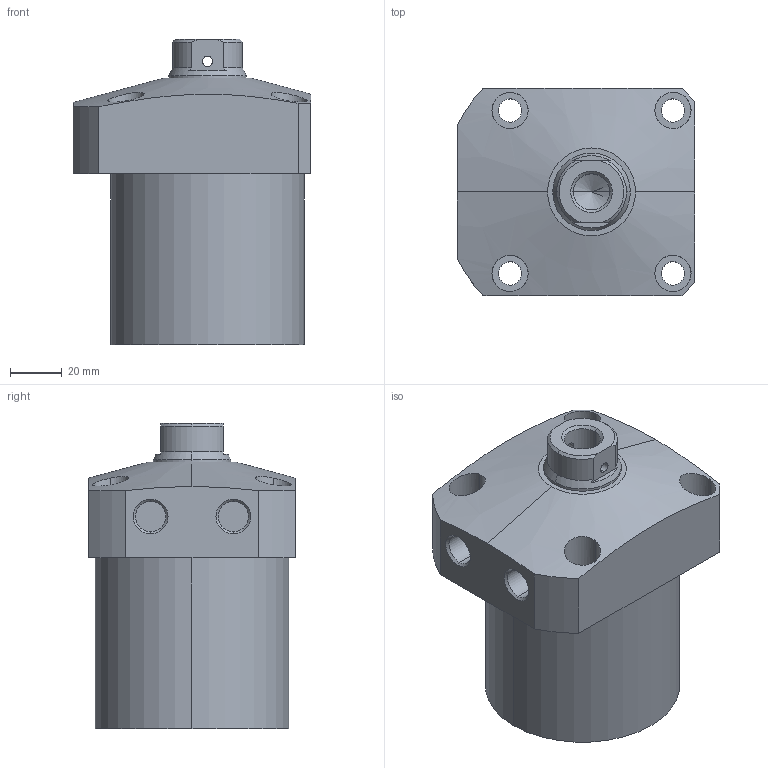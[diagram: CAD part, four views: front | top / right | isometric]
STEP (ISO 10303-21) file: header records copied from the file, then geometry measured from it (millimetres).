
FILE_DESCRIPTION (( 'STEP AP203' ), '1' );
FILE_NAME ('CLL-075CB-050.STEP', '2019-12-20T06:09:30', ( '' ), ( '' ), 'SwSTEP 2.0', 'SolidWorks 2015', '' );
FILE_SCHEMA (( 'CONFIG_CONTROL_DESIGN' ));
Length unit declared in the file: millimetre
Products named in the file (1): CLL-075CB-050
Bounding box: 92 x 80 x 118 mm (x, y, z)
Volume: 514149.8 mm3; surface area: 46905.5 mm2
Topology: 1 solids, 1 shells, 76 faces, 181 edges, 116 vertices
Faces by surface type: cylinder 39, plane 22, cone 15
Entity records: 2809 total; most frequent: CARTESIAN_POINT 932, DIRECTION 386, ORIENTED_EDGE 358, EDGE_CURVE 179, AXIS2_PLACEMENT_3D 158, VERTEX_POINT 116, EDGE_LOOP 99, CIRCLE 81
